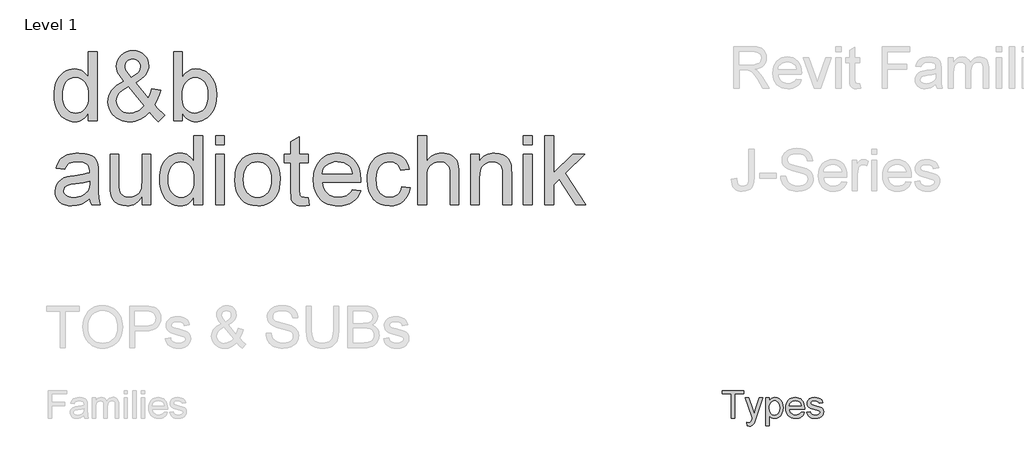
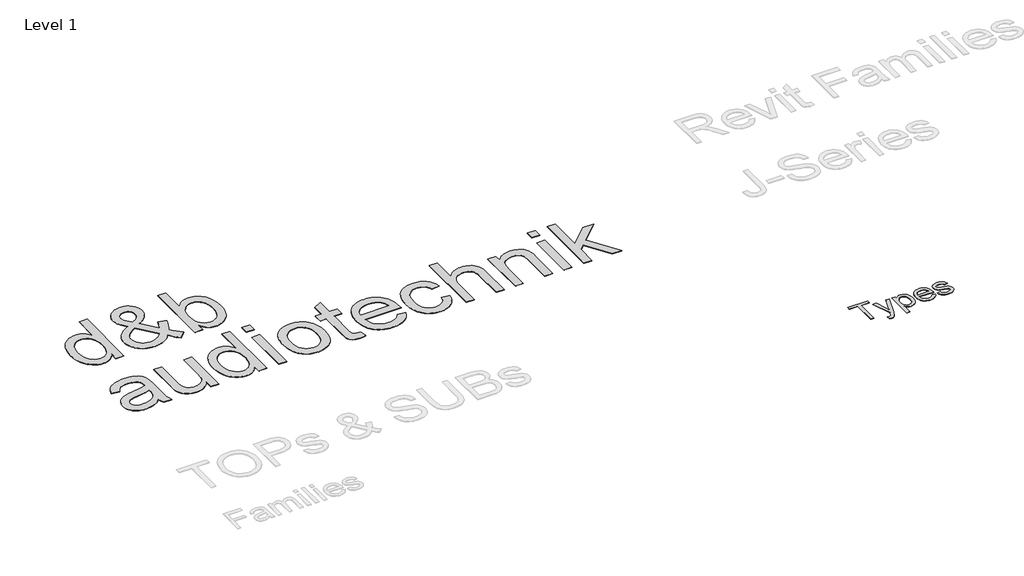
# One storey, part 6 of 7: 2 proxies.
"""IFC4 building model written with IfcOpenShell, lengths in millimetres."""

from ifc_helpers import new_model, si_unit, origin, origin_with_axes, place, context, project, spatial, polyline, outline, extrude, element, save

model = new_model("IFC4")

# Units and contexts
model_context = context("Model", 3, world=origin())
ifc_project = project(units=[si_unit("LENGTHUNIT", "METRE", prefix="MILLI")], contexts=[model_context])

# Site, building, storey
site = spatial("IfcSite", under=ifc_project)
building = spatial("IfcBuilding", under=site)
storey = spatial("IfcBuildingStorey", under=building, Name="Level 1", Elevation=0.0)

# Proxies
placement = place(None, origin())
element("IfcBuildingElementProxy", 1, Name="1000mm Arial", ObjectType="1000mm Arial", at=placement, inside=storey, context=model_context, shape_type="SweptSolid", body=[
    extrude(outline(polyline([(-20485.0918031, 21579.111869), (-20485.0918031, 21694.6019258), (-20502.4384754, 21663.947296), (-20521.720443, 21637.3799502), (-20542.937706, 21614.8998883), (-20566.0902643, 21596.5071105), (-20591.1781179, 21582.2016166), (-20618.2012669, 21571.9834066), (-20647.1597112, 21565.8524807), (-20678.0534508, 21563.8088387), (-20718.4630152, 21566.7678231), (-20757.1988107, 21575.6447762), (-20794.2608372, 21590.4396981), (-20829.6490948, 21611.1525887), (-20862.2577004, 21637.1632569), (-20890.9807709, 21667.8515115), (-20915.8183064, 21703.2173525), (-20936.7703069, 21743.26078), (-20953.4033857, 21787.2196312), (-20965.2841563, 21834.3317435), (-20972.4126187, 21884.597117), (-20974.7887728, 21938.0157516), (-20972.5994233, 21990.4555302), (-20966.0313746, 22040.4145442), (-20955.0846269, 22087.8927935), (-20939.75918, 22132.8902781), (-20920.0625062, 22174.0918939), (-20896.0020777, 22210.1825366), (-20867.5778945, 22241.1622064), (-20834.7899565, 22267.0309031), (-20798.7964521, 22287.429962), (-20760.7555697, 22302.0007184), (-20720.6673091, 22310.7431723), (-20678.5316705, 22313.6573235), (-20647.7163888, 22311.5725845), (-20618.6346535, 22305.3183676), (-20591.2864646, 22294.8946726), (-20565.671822, 22280.3014997), (-20542.0746689, 22262.3757332), (-20520.778948, 22241.9542577), (-20501.7846594, 22219.0370732), (-20485.0918031, 22193.6241796), (-20485.0918031, 22558.5058084), (-20362.6675607, 22558.5058084), (-20362.6675607, 21579.111869), (-20485.0918031, 21579.111869)]), holes=[polyline([(-20852.3645304, 21938.4939713), (-20848.9123819, 21879.1274792), (-20838.5559366, 21827.7562227), (-20821.2951944, 21784.3802017), (-20797.1301554, 21748.9994163), (-20768.2725855, 21721.5391447), (-20736.934251, 21701.9246649), (-20703.1151518, 21690.1559771), (-20666.815288, 21686.2330811), (-20630.3435639, 21689.9766447), (-20596.7262136, 21701.2073354), (-20565.9632372, 21719.9251532), (-20538.0546345, 21746.1300982), (-20514.8833958, 21780.0313914), (-20498.332511, 21821.8382539), (-20488.4019801, 21871.5506859), (-20485.0918031, 21929.1686872), (-20488.4617575, 21992.3385203), (-20498.5716208, 22046.5118453), (-20515.4213929, 22091.6886623), (-20539.0110739, 22127.8689713), (-20567.5323956, 22155.5907693), (-20599.1770896, 22175.3920537), (-20633.945156, 22187.2728242), (-20671.8365948, 22191.2330811), (-20708.8537882, 22187.4297401), (-20742.6728874, 22176.019717), (-20773.2938924, 22157.0030119), (-20800.7168031, 22130.3796247), (-20823.3126838, 22095.5667252), (-20839.4525986, 22051.9814831), (-20849.1365474, 21999.6238985), (-20852.3645304, 21938.4939713)])]), origin_with_axes(), (0.0, 0.0, 1.0), 5.0),
    extrude(outline(polyline([(-19617.362163, 21700.1014523), (-19647.8038355, 21668.157871), (-19679.590501, 21640.4734339), (-19712.7221594, 21617.0481409), (-19747.1988107, 21597.8819921), (-19783.0503436, 21582.9749875), (-19820.3066469, 21572.327127), (-19858.9677205, 21565.9384108), (-19899.0335645, 21563.8088387), (-19935.7219818, 21565.3854693), (-19970.4676317, 21570.1153609), (-20003.270514, 21577.9985138), (-20034.1306289, 21589.0349277), (-20063.0479762, 21603.2246028), (-20090.0225559, 21620.567539), (-20115.0543682, 21641.0637363), (-20138.143413, 21664.7131948), (-20169.42197, 21707.0505823), (-20191.7637965, 21751.8089571), (-20205.1688924, 21798.988319), (-20209.6372577, 21848.5886682), (-20206.0431377, 21892.569936), (-20195.260778, 21934.3693264), (-20177.2901785, 21973.9868394), (-20152.1313391, 22011.4224751), (-20119.829093, 22046.661289), (-20080.4282733, 22079.6883368), (-20033.9288799, 22110.5036185), (-19980.330913, 22139.1071341), (-20033.7420754, 22208.2098804), (-20065.8126838, 22262.9660357), (-20081.8629324, 22309.712011), (-20087.2130152, 22354.7842175), (-20082.9987041, 22397.569936), (-20070.3557709, 22437.4564476), (-20049.2842155, 22474.4437523), (-20019.784038, 22508.5318501), (-19983.9026163, 22537.0905326), (-19943.6873287, 22557.4895915), (-19899.138175, 22569.7290269), (-19850.2551554, 22573.8088387), (-19803.5839018, 22569.9083593), (-19761.3660692, 22558.2069211), (-19723.6016575, 22538.7045241), (-19690.2906667, 22511.4011682), (-19663.0919215, 22478.6281746), (-19643.6642463, 22442.7168643), (-19632.0076412, 22403.6672371), (-19628.1221061, 22361.4792932), (-19630.9988965, 22326.7336434), (-19639.6292676, 22293.273209), (-19654.0132194, 22261.09799), (-19674.150752, 22230.2079864), (-19700.0418653, 22200.6031983), (-19731.6865593, 22172.2836256), (-19769.084834, 22145.2492684), (-19812.2366895, 22119.5001266), (-19635.0562917, 21898.8017364), (-19604.8686734, 21961.866959), (-19582.2130152, 22034.3770205), (-19459.7887728, 22007.8358273), (-19477.213903, 21947.9836434), (-19497.4485739, 21894.4379817), (-19520.4927856, 21847.1988422), (-19546.346538, 21806.2662251), (-19512.6320493, 21763.9138931), (-19476.765572, 21725.0884315), (-19438.7471061, 21689.7898401), (-19398.5766516, 21658.018119), (-19490.3948334, 21563.8088387), (-19521.3745032, 21589.6327023), (-19552.8622813, 21620.9560925), (-19617.362163, 21700.1014523)]), holes=[polyline([(-19874.1661402, 22196.7326076), (-19810.1444783, 22237.3513931), (-19788.4004264, 22255.6657131), (-19773.500894, 22272.6499845), (-19756.2849849, 22306.9921365), (-19750.5463486, 22344.7416038), (-19752.4368108, 22367.2104574), (-19758.1081975, 22387.512378), (-19767.5605087, 22405.6473656), (-19780.7937444, 22421.6154201), (-19796.8664095, 22434.6394347), (-19814.8370091, 22443.9423022), (-19834.705543, 22449.5240228), (-19856.4720114, 22451.3845963), (-19878.7017552, 22449.5389671), (-19899.0036757, 22444.0020797), (-19917.3777732, 22434.773934), (-19933.8240474, 22421.85453), (-19947.3711148, 22406.2750289), (-19957.0475915, 22389.066592), (-19962.8534775, 22370.2292193), (-19964.7887728, 22349.7629107), (-19962.1585645, 22327.9142483), (-19954.2679395, 22304.9298141), (-19941.0571203, 22280.6900532), (-19922.4663296, 22255.0754107), (-19874.1661402, 22196.7326076)]), polyline([(-19699.376841, 21788.3329864), (-19917.9232425, 22061.1573235), (-19963.7202507, 22034.0333001), (-20001.4024684, 22007.8956048), (-20030.9698956, 21982.7442376), (-20052.4225323, 21958.5791985), (-20067.6433686, 21934.967101), (-20078.5153945, 21911.4745584), (-20085.03861, 21888.1015707), (-20087.2130152, 21864.8481379), (-20084.2390865, 21836.2446223), (-20075.3173003, 21807.1031095), (-20060.4476566, 21777.4235996), (-20039.6301554, 21747.2060925), (-20013.3579608, 21720.5304), (-19982.1242368, 21701.476334), (-19945.9289835, 21690.0438943), (-19904.7722008, 21686.2330811), (-19877.2969848, 21688.0114606), (-19849.3883822, 21693.3465991), (-19821.0463929, 21702.2384966), (-19792.2710171, 21714.6871531), (-19764.7210793, 21729.9602947), (-19740.055404, 21747.3256474), (-19718.2739912, 21766.7832113), (-19699.376841, 21788.3329864)])]), origin_with_axes(), (0.0, 0.0, 1.0), 5.0),
    extrude(outline(polyline([(-19153.7281667, 21579.111869), (-19276.1524092, 21579.111869), (-19276.1524092, 22558.5058084), (-19153.7281667, 22558.5058084), (-19153.7281667, 22195.2979485), (-19134.2481863, 22223.0384271), (-19113.468046, 22247.0801751), (-19091.3877459, 22267.4231927), (-19068.0072861, 22284.0674798), (-19043.3266664, 22297.0130364), (-19017.3458869, 22306.2598626), (-18990.0649476, 22311.8079583), (-18961.4838486, 22313.6573235), (-18929.5178507, 22311.9910268), (-18898.418626, 22306.9921365), (-18868.1861746, 22298.6606527), (-18838.8204963, 22286.9965754), (-18811.1734201, 22272.3137363), (-18786.0967747, 22254.925967), (-18763.5905602, 22234.8332675), (-18743.6547766, 22212.0356379), (-18710.3886189, 22158.7440305), (-18685.1924186, 22095.4695868), (-18669.3215024, 22024.8425153), (-18664.031197, 21949.4930243), (-18669.508307, 21862.5467056), (-18676.3546945, 21822.9964423), (-18685.9396369, 21786.0614429), (-18698.2631343, 21751.7417074), (-18713.3251867, 21720.0372359), (-18731.1257941, 21690.9480284), (-18751.6649565, 21664.4740849), (-18797.6861302, 21620.4330397), (-18822.3499374, 21603.1312005), (-18848.1158916, 21588.9751502), (-18874.9839928, 21577.9648889), (-18902.954241, 21570.1004166), (-18932.0266361, 21565.3817332), (-18962.2011781, 21563.8088387), (-18991.8694798, 21565.8375363), (-19019.9013734, 21571.9236292), (-19046.296859, 21582.0671173), (-19071.0559366, 21596.2680006), (-19094.1786062, 21614.5262792), (-19115.6648677, 21636.841953), (-19135.5147213, 21663.2150221), (-19153.7281667, 21693.6454864), (-19153.7281667, 21579.111869)]), holes=[polyline([(-19153.7281667, 21943.7543879), (-19151.6359556, 21888.5797904), (-19145.359322, 21841.6544826), (-19134.8982662, 21802.9784646), (-19120.252788, 21772.5517364), (-19090.5882224, 21734.7873247), (-19056.1115711, 21707.8127449), (-19016.8228341, 21691.6279971), (-18972.7220114, 21686.2330811), (-18936.1083159, 21690.2082823), (-18902.0650512, 21702.133886), (-18870.5922174, 21722.0098922), (-18841.6898145, 21749.8363008), (-18817.5247754, 21785.5383901), (-18800.2640332, 21829.0414381), (-18789.9075879, 21880.345445), (-18786.4554395, 21939.4504107), (-18789.7656164, 21999.6762037), (-18799.6961473, 22051.4733747), (-18816.2470322, 22094.8419234), (-18839.4182709, 22129.7818501), (-18867.2820404, 22156.6667636), (-18897.9105176, 22175.8702733), (-18931.3037024, 22187.3923792), (-18967.4615948, 22191.2330811), (-19004.0752903, 22187.2578799), (-19038.118555, 22175.3322762), (-19069.5913888, 22155.45627), (-19098.4937917, 22127.6298614), (-19122.6588308, 22092.2864369), (-19139.919573, 22049.8593832), (-19150.2760183, 22000.3487002), (-19153.7281667, 21943.7543879)])]), origin_with_axes(), (0.0, 0.0, 1.0), 5.0),
    extrude(outline(polyline([(-20469.7887728, 20473.9603538), (-20498.8182028, 20446.7167755), (-20528.2810195, 20423.8070631), (-20558.1772227, 20405.2312168), (-20588.5068126, 20390.9892364), (-20619.6135094, 20380.42357), (-20651.8410337, 20372.8766654), (-20719.6585645, 20366.8391417), (-20774.1681377, 20370.4706225), (-20821.9676909, 20381.365065), (-20863.0572239, 20399.5224691), (-20897.4367368, 20424.9428349), (-20924.5831768, 20456.0121708), (-20943.9734911, 20491.1164855), (-20955.6076796, 20530.2557788), (-20959.4857425, 20573.4300508), (-20953.6275512, 20624.1811162), (-20936.0529773, 20670.2695394), (-20908.9438983, 20709.7226644), (-20874.4821914, 20740.5678349), (-20833.9829608, 20763.8810451), (-20788.7613107, 20780.7382894), (-20744.7053211, 20790.123351), (-20682.8356478, 20799.1497478), (-20557.6616421, 20818.5176455), (-20509.331564, 20829.4569211), (-20470.5061023, 20841.2330811), (-20469.7887728, 20868.4916038), (-20471.8959283, 20898.1711138), (-20478.217395, 20923.1282042), (-20488.7531727, 20943.3628751), (-20503.5032614, 20958.8751266), (-20528.998349, 20974.3574893), (-20560.0527406, 20985.4163198), (-20596.6664362, 20992.051618), (-20638.8394357, 20994.2633841), (-20678.0534508, 20992.7913641), (-20711.7679395, 20988.3753041), (-20739.9829016, 20981.0152041), (-20762.6983372, 20970.7110641), (-20781.3638497, 20956.6558883), (-20797.4290427, 20938.042681), (-20810.893916, 20914.8714423), (-20821.7584698, 20887.142172), (-20944.1827122, 20902.4452023), (-20934.8649003, 20937.713905), (-20922.9318244, 20969.3959599), (-20908.3834846, 20997.4913671), (-20891.2198808, 21022.0001266), (-20870.7012669, 21043.4154024), (-20846.0878969, 21062.2303586), (-20817.3797707, 21078.4449952), (-20784.5768883, 21092.0593122), (-20748.3442741, 21102.8341997), (-20709.3469523, 21110.530548), (-20667.5849228, 21115.1483569), (-20623.0581857, 21116.6876266), (-20540.2962894, 21111.2478775), (-20505.3488906, 21104.4481912), (-20474.6905247, 21094.9286304), (-20425.2246748, 21070.3899822), (-20406.1631366, 21056.0359191), (-20390.8825228, 21040.29203), (-20368.1073097, 21003.0805598), (-20353.3422766, 20957.2013576), (-20348.8589669, 20914.8789144), (-20347.3645304, 20850.0801455), (-20347.3645304, 20697.767172), (-20345.8103164, 20565.0910948), (-20341.1476743, 20485.0789618), (-20331.9419452, 20432.5046839), (-20316.7584698, 20382.142172), (-20439.1827122, 20382.142172), (-20458.7897198, 20424.7037251), (-20469.7887728, 20473.9603538)]), holes=[polyline([(-20469.7887728, 20718.8088387), (-20552.0425607, 20698.4247241), (-20667.2935077, 20681.2685925), (-20730.8070612, 20671.8835309), (-20772.6213959, 20661.4224751), (-20800.0293623, 20647.8529912), (-20820.3238107, 20629.1426455), (-20832.8770777, 20606.7260972), (-20837.0615001, 20582.0380054), (-20834.7824843, 20563.013828), (-20827.9454371, 20545.6335309), (-20816.5503584, 20529.897114), (-20800.5972482, 20515.8045773), (-20780.2355501, 20504.1928053), (-20755.6147079, 20495.8986824), (-20726.7347215, 20490.9222087), (-20693.595591, 20489.2633841), (-20659.7615474, 20491.0940689), (-20627.8403827, 20496.5861233), (-20597.8320967, 20505.7395471), (-20569.7366895, 20518.5543406), (-20544.3910455, 20533.9694536), (-20522.6320493, 20550.9238363), (-20504.4597008, 20569.4174887), (-20489.8740001, 20589.4504107), (-20481.4005448, 20607.3836493), (-20475.3480768, 20629.1426455), (-20470.5061023, 20684.1379107), (-20469.7887728, 20718.8088387)])]), origin_with_axes(), (0.0, 0.0, 1.0), 5.0),
    extrude(outline(polyline([(-19719.940288, 20382.142172), (-19719.940288, 20505.7619637), (-19741.1762314, 20473.2019273), (-19764.2353874, 20444.9832291), (-19789.117756, 20421.1058691), (-19815.8233372, 20401.5698472), (-19844.352131, 20386.3751636), (-19874.7041374, 20375.5218181), (-19906.8793564, 20369.0098108), (-19940.877788, 20366.8391417), (-20000.5058064, 20372.9364429), (-20028.7730738, 20380.5580693), (-20056.00918, 20391.2283463), (-20102.575823, 20418.7259788), (-20120.7033384, 20434.8061162), (-20135.3936497, 20452.4404675), (-20157.4814219, 20493.388029), (-20171.8579016, 20542.5848804), (-20177.2378732, 20588.972191), (-20179.031197, 20656.4011682), (-20179.031197, 21101.3845963), (-20056.6069546, 21101.3845963), (-20056.6069546, 20714.0266417), (-20054.7538533, 20636.5550508), (-20049.1945493, 20589.2113008), (-20041.864338, 20567.1459451), (-20031.3509769, 20547.5762984), (-20017.6544659, 20530.5023608), (-20000.774805, 20515.9241323), (-19981.2201027, 20504.260055), (-19959.4984674, 20495.9285712), (-19935.6098991, 20490.9296809), (-19909.5543978, 20489.2633841), (-19882.7217895, 20490.9670418), (-19856.74101, 20496.0780148), (-19831.6120594, 20504.5963032), (-19807.3349376, 20516.5219069), (-19785.2247488, 20531.3840784), (-19766.5965971, 20548.7120702), (-19751.4504827, 20568.5058824), (-19739.7864054, 20590.7655148), (-19731.103729, 20616.9106823), (-19724.9018173, 20648.3610996), (-19719.940288, 20727.1776834), (-19719.940288, 21101.3845963), (-19597.5160455, 21101.3845963), (-19597.5160455, 20382.142172), (-19719.940288, 20382.142172)])), origin_with_axes(), (0.0, 0.0, 1.0), 5.0),
    extrude(outline(polyline([(-18985.3948334, 20382.142172), (-18985.3948334, 20497.6322288), (-19002.7415057, 20466.977599), (-19022.0234733, 20440.4102532), (-19043.2407363, 20417.9301914), (-19066.3932946, 20399.5374135), (-19091.4811482, 20385.2319196), (-19118.5042972, 20375.0137097), (-19147.4627415, 20368.8827837), (-19178.3564811, 20366.8391417), (-19218.7660455, 20369.7981261), (-19257.501841, 20378.6750792), (-19294.5638675, 20393.4700011), (-19329.9521251, 20414.1828917), (-19362.5607307, 20440.1935599), (-19391.2838012, 20470.8818145), (-19416.1213367, 20506.2476556), (-19437.0733372, 20546.291083), (-19453.706416, 20590.2499342), (-19465.5871866, 20637.3620466), (-19472.715649, 20687.62742), (-19475.0918031, 20741.0460546), (-19472.9024536, 20793.4858332), (-19466.3344049, 20843.4448472), (-19455.3876572, 20890.9230965), (-19440.0622103, 20935.9205811), (-19420.3655365, 20977.1221969), (-19396.305108, 21013.2128396), (-19367.8809248, 21044.1925094), (-19335.0929868, 21070.0612061), (-19299.0994824, 21090.4602651), (-19261.0586, 21105.0310215), (-19220.9703394, 21113.7734753), (-19178.8347008, 21116.6876266), (-19148.0194191, 21114.6028876), (-19118.9376838, 21108.3486706), (-19091.5894949, 21097.9249756), (-19065.9748523, 21083.3318027), (-19042.3776992, 21065.4060363), (-19021.0819783, 21044.9845608), (-19002.0876897, 21022.0673762), (-18985.3948334, 20996.6544826), (-18985.3948334, 21361.5361114), (-18862.970591, 21361.5361114), (-18862.970591, 20382.142172), (-18985.3948334, 20382.142172)]), holes=[polyline([(-19352.6675607, 20741.5242743), (-19349.2154122, 20682.1577822), (-19338.8589669, 20630.7865257), (-19321.5982247, 20587.4105048), (-19297.4331857, 20552.0297194), (-19268.5756158, 20524.5694477), (-19237.2372813, 20504.954968), (-19203.4181821, 20493.1862801), (-19167.1183183, 20489.2633841), (-19130.6465942, 20493.0069477), (-19097.0292439, 20504.2376384), (-19066.2662675, 20522.9554562), (-19038.3576648, 20549.1604012), (-19015.1864261, 20583.0616944), (-18998.6355413, 20624.868557), (-18988.7050104, 20674.5809889), (-18985.3948334, 20732.1989902), (-18988.7647878, 20795.3688233), (-18998.8746511, 20849.5421483), (-19015.7244233, 20894.7189653), (-19039.3141042, 20930.8992743), (-19067.8354259, 20958.6210724), (-19099.4801199, 20978.4223567), (-19134.2481863, 20990.3031273), (-19172.1396251, 20994.2633841), (-19209.1568185, 20990.4600431), (-19242.9759177, 20979.05002), (-19273.5969227, 20960.0333149), (-19301.0198334, 20933.4099277), (-19323.6157141, 20898.5970282), (-19339.7556289, 20855.0117861), (-19349.4395777, 20802.6542015), (-19352.6675607, 20741.5242743)])]), origin_with_axes(), (0.0, 0.0, 1.0), 5.0),
    extrude(outline(polyline([(-18679.3342273, 20382.142172), (-18679.3342273, 21101.3845963), (-18556.9099849, 21101.3845963), (-18556.9099849, 20382.142172), (-18679.3342273, 20382.142172)])), origin_with_axes(), (0.0, 0.0, 1.0), 5.0),
    extrude(outline(polyline([(-18679.3342273, 21239.111869), (-18679.3342273, 21361.5361114), (-18556.9099849, 21361.5361114), (-18556.9099849, 21239.111869), (-18679.3342273, 21239.111869)])), origin_with_axes(), (0.0, 0.0, 1.0), 5.0),
    extrude(outline(polyline([(-18403.8796819, 20741.7633841), (-18402.2245934, 20789.9477547), (-18397.259328, 20834.9116145), (-18388.9838856, 20876.6549635), (-18377.3982662, 20915.1778018), (-18362.5024698, 20950.4801292), (-18344.2964965, 20982.5619459), (-18322.7803463, 21011.4232519), (-18297.954019, 21037.064047), (-18251.2977098, 21071.8993631), (-18199.7994262, 21096.7817317), (-18143.4591682, 21111.7111528), (-18082.2769357, 21116.6876266), (-18014.7358757, 21110.6276863), (-17983.391937, 21103.0527611), (-17953.6657259, 21092.4478657), (-17925.5572424, 21078.8130002), (-17899.0664865, 21062.1481646), (-17874.1934581, 21042.4533588), (-17850.9381573, 21019.728583), (-17829.8946226, 20994.3325018), (-17811.6568925, 20966.6237801), (-17796.224967, 20936.6024178), (-17783.5988462, 20904.2684149), (-17773.77853, 20869.6217715), (-17766.7640184, 20832.6624875), (-17761.1524092, 20751.8059978), (-17763.6331738, 20686.2749549), (-17771.0754679, 20628.1264287), (-17783.4792913, 20577.3604189), (-17800.844644, 20533.9769258), (-17822.9548328, 20496.5039292), (-17849.5931644, 20463.4694092), (-17880.7596387, 20434.8733658), (-17916.4542558, 20410.7157989), (-17955.2871896, 20391.5197614), (-17995.8686142, 20377.808306), (-18038.1985295, 20369.5814328), (-18082.2769357, 20366.8391417), (-18150.8043238, 20372.8766654), (-18182.4845107, 20380.42357), (-18212.4423594, 20390.9892364), (-18240.6778701, 20404.5736647), (-18267.1910426, 20421.1768548), (-18291.9818769, 20440.7988067), (-18315.0503732, 20463.4395205), (-18335.8697424, 20488.9196637), (-18353.9131957, 20517.059904), (-18369.1807332, 20547.8602414), (-18381.6723547, 20581.3206758), (-18391.3880604, 20617.4412073), (-18398.3278501, 20656.2218358), (-18403.8796819, 20741.7633841)]), holes=[polyline([(-18281.4554395, 20742.002494), (-18277.9136248, 20682.6210576), (-18267.2881809, 20631.204968), (-18249.5791078, 20587.7542252), (-18224.7864054, 20552.2688292), (-18194.6286757, 20524.703947), (-18160.8245209, 20505.0147454), (-18123.3739409, 20493.2012245), (-18082.2769357, 20489.2633841), (-18041.3891516, 20493.223641), (-18004.0880152, 20505.1044116), (-17970.3735266, 20524.9056959), (-17940.2456857, 20552.627494), (-17915.4529833, 20588.4640825), (-17897.7439101, 20632.6097383), (-17887.1184662, 20685.0644613), (-17883.5766516, 20745.8282516), (-17887.1408828, 20803.3266979), (-17897.8335763, 20853.3977947), (-17915.6547322, 20896.0415417), (-17940.6043505, 20931.2579391), (-17970.8442741, 20958.8228213), (-18004.5363462, 20978.5120229), (-18041.6805667, 20990.3255438), (-18082.2769357, 20994.2633841), (-18123.3739409, 20990.3404882), (-18160.8245209, 20978.5718003), (-18194.6286757, 20958.9573206), (-18224.7864054, 20931.4970489), (-18249.5791078, 20896.1162635), (-18267.2881809, 20852.7402426), (-18277.9136248, 20801.3689861), (-18281.4554395, 20742.002494)])]), origin_with_axes(), (0.0, 0.0, 1.0), 5.0),
    extrude(outline(polyline([(-17363.2736213, 20484.2420773), (-17347.970591, 20378.5555243), (-17396.4501128, 20369.7682374), (-17439.549663, 20366.8391417), (-17498.3109082, 20371.920226), (-17522.0873938, 20378.2715814), (-17542.127788, 20387.1634788), (-17573.0925133, 20410.6560215), (-17593.2972955, 20440.4849751), (-17599.7831502, 20461.5415861), (-17604.4159035, 20491.7142601), (-17608.1221061, 20579.407797), (-17608.1221061, 20978.9603538), (-17699.940288, 20978.9603538), (-17699.940288, 21101.3845963), (-17608.1221061, 21101.3845963), (-17608.1221061, 21276.1738955), (-17485.6978637, 21348.1459599), (-17485.6978637, 21101.3845963), (-17363.2736213, 21101.3845963), (-17363.2736213, 20978.9603538), (-17485.6978637, 20978.9603538), (-17485.6978637, 20582.9944448), (-17484.0838722, 20542.7044353), (-17479.2418978, 20519.8694448), (-17470.7833869, 20507.2265115), (-17458.3197861, 20497.5126739), (-17440.655546, 20491.3257066), (-17416.5951175, 20489.2633841), (-17363.2736213, 20484.2420773)])), origin_with_axes(), (0.0, 0.0, 1.0), 5.0),
    extrude(outline(polyline([(-16737.284038, 20596.3845963), (-16617.250894, 20581.081566), (-16635.6548802, 20533.0055421), (-16660.4998879, 20490.6382658), (-16691.7859171, 20453.9797371), (-16729.5129679, 20423.0299561), (-16773.2924867, 20398.4464748), (-16822.7359201, 20380.8868453), (-16877.8432679, 20370.3510676), (-16938.6145304, 20366.8391417), (-16977.6305327, 20368.3541268), (-17014.5767404, 20372.8990819), (-17049.4531534, 20380.4740072), (-17082.2597719, 20391.0789026), (-17112.9965957, 20404.7137681), (-17141.6636248, 20421.3786037), (-17168.2608594, 20441.0734094), (-17192.7882993, 20463.7981853), (-17214.812558, 20489.25778), (-17233.9002489, 20517.1570424), (-17250.0513719, 20547.4959725), (-17263.2659272, 20580.2745702), (-17273.5439146, 20615.4928356), (-17280.8853341, 20653.1507687), (-17286.7584698, 20735.7856379), (-17280.8255567, 20821.2225757), (-17273.4094153, 20860.1414396), (-17263.0268173, 20896.5272336), (-17249.6777628, 20930.3799576), (-17233.3622517, 20961.6996117), (-17214.0802841, 20990.4861958), (-17191.8318599, 21016.7397099), (-17167.2184899, 21040.1650029), (-17140.8416847, 21060.4669234), (-17112.7014444, 21077.6454716), (-17082.797769, 21091.7006474), (-17051.1306585, 21102.6324508), (-17017.7001128, 21110.4408818), (-16982.5061319, 21115.1259404), (-16945.548716, 21116.6876266), (-16909.7999256, 21115.1296765), (-16875.721168, 21110.4558261), (-16843.3124433, 21102.6660756), (-16812.5737515, 21091.7604249), (-16783.5050925, 21077.7388739), (-16756.1064663, 21060.6014227), (-16730.377873, 21040.3480713), (-16706.3193126, 21016.9788198), (-16684.54724, 20990.7850831), (-16665.6781105, 20962.0582764), (-16649.711924, 20930.7983998), (-16636.6486805, 20897.0054533), (-16626.48838, 20860.6794368), (-16619.2310224, 20821.8203503), (-16613.4251364, 20736.5029675), (-16614.142466, 20703.5058084), (-17164.3342273, 20703.5058084), (-17157.2431259, 20654.6526775), (-17143.143117, 20611.866959), (-17122.0342007, 20575.1486528), (-17093.916377, 20544.4977591), (-17060.3438598, 20520.3327201), (-17022.8708632, 20503.0719779), (-16981.4973873, 20492.7155326), (-16936.2234319, 20489.2633841), (-16902.3594996, 20490.8624313), (-16871.0659982, 20495.6595726), (-16842.3429276, 20503.6548082), (-16816.190288, 20514.8481379), (-16792.6080791, 20529.5384492), (-16771.5963012, 20548.0246294), (-16753.1549541, 20570.3066784), (-16737.284038, 20596.3845963)]), holes=[polyline([(-17164.3342273, 20825.9300508), (-16735.8493789, 20825.9300508), (-16742.1409568, 20860.5710901), (-16752.4077359, 20890.6092648), (-16766.6497162, 20916.044575), (-16784.8668978, 20936.8770205), (-16818.2526104, 20961.9835546), (-16856.2411876, 20979.9167932), (-16898.8326293, 20990.6767364), (-16946.0269357, 20994.2633841), (-16989.0741806, 20991.4015381), (-17028.5497221, 20982.8160001), (-17064.4535603, 20968.5067702), (-17096.7856952, 20948.4738482), (-17123.9171908, 20923.6437848), (-17144.2191113, 20894.9431308), (-17157.6914569, 20862.3718862), (-17164.3342273, 20825.9300508)])]), origin_with_axes(), (0.0, 0.0, 1.0), 5.0),
    extrude(outline(polyline([(-16031.9099849, 20642.2936872), (-15909.4857425, 20626.9906569), (-15922.8011722, 20569.2232119), (-15943.6186734, 20518.1060096), (-15971.9382461, 20473.63905), (-16007.7598902, 20435.822333), (-16049.574225, 20405.6421868), (-16095.8718694, 20384.0849395), (-16146.6528235, 20371.1505912), (-16201.9170872, 20366.8391417), (-16270.5789746, 20372.8542488), (-16302.2479532, 20380.3731328), (-16332.1422884, 20390.8995702), (-16360.2619802, 20404.4335613), (-16386.6070286, 20420.9751059), (-16411.1774336, 20440.524204), (-16433.9731952, 20463.0808557), (-16454.5123575, 20488.4470482), (-16472.3129649, 20516.4247685), (-16487.3750173, 20547.0140167), (-16499.6985148, 20580.2147928), (-16509.2834572, 20616.0270967), (-16516.1298447, 20654.4509285), (-16521.6069546, 20739.1331758), (-16519.2681614, 20795.4211286), (-16512.2517818, 20848.0776005), (-16500.5578158, 20897.1025916), (-16484.1862633, 20942.4961019), (-16463.0250417, 20983.3465251), (-16436.9620683, 21018.7422549), (-16405.9973429, 21048.6832912), (-16370.1308656, 21073.1696341), (-16330.9841001, 21092.2087558), (-16290.17851, 21105.8081285), (-16247.7140954, 21113.967752), (-16203.5908561, 21116.6876266), (-16149.2755596, 21112.9515352), (-16100.1459579, 21101.743261), (-16056.2020511, 21083.0628041), (-16017.4438391, 21056.9101644), (-15984.528874, 21023.8831166), (-15958.1147079, 20984.5794353), (-15938.2013409, 20938.9991204), (-15924.7887728, 20887.142172), (-16047.2130152, 20871.8391417), (-16056.769937, 20900.4351852), (-16069.4203424, 20925.2503041), (-16085.1642315, 20946.2844986), (-16104.0016042, 20963.5377686), (-16125.454241, 20976.9802254), (-16149.0439219, 20986.5819803), (-16174.7706472, 20992.3430332), (-16202.6344167, 20994.2633841), (-16244.2320582, 20990.4824597), (-16281.7498879, 20979.1396862), (-16315.1879057, 20960.2350638), (-16344.5461118, 20933.7685925), (-16368.4496245, 20899.1275532), (-16385.5235621, 20855.6992269), (-16395.7679247, 20803.4836138), (-16399.1827122, 20742.4807137), (-16395.8426465, 20680.5587351), (-16385.8224494, 20627.7378751), (-16369.1221209, 20584.0181338), (-16345.7416611, 20549.399511), (-16316.9662852, 20523.0899555), (-16284.0812089, 20504.2974159), (-16247.086432, 20493.0218921), (-16205.9819546, 20489.2633841), (-16172.8577684, 20491.6096495), (-16142.587956, 20498.6484457), (-16115.1725175, 20510.3797726), (-16090.6114527, 20526.8036304), (-16069.5922026, 20548.0993512), (-16052.8022079, 20574.4462677), (-16040.2414687, 20605.8443796), (-16031.9099849, 20642.2936872)])), origin_with_axes(), (0.0, 0.0, 1.0), 5.0),
    extrude(outline(polyline([(-15802.3645304, 20382.142172), (-15802.3645304, 21361.5361114), (-15679.940288, 21361.5361114), (-15679.940288, 21001.4366796), (-15658.1476669, 21028.4486203), (-15634.9726921, 21051.8589689), (-15610.4153634, 21071.6677254), (-15584.4756809, 21087.8748898), (-15557.1536447, 21100.4804622), (-15528.4492546, 21109.4844424), (-15498.3625107, 21114.8868305), (-15466.893413, 21116.6876266), (-15428.6208928, 21114.7224425), (-15392.9486923, 21108.8268903), (-15359.8768114, 21099.00097), (-15329.4052501, 21085.2446815), (-15302.3111154, 21068.0213002), (-15279.3715143, 21047.7941015), (-15260.5864468, 21024.5630853), (-15245.955913, 20998.3282516), (-15234.9718043, 20967.4681367), (-15227.1260124, 20930.3612771), (-15222.4185372, 20887.0076727), (-15220.8493789, 20837.4073235), (-15220.8493789, 20382.142172), (-15343.2736213, 20382.142172), (-15343.2736213, 20824.7345016), (-15345.7095529, 20866.0706166), (-15353.0173476, 20901.369208), (-15365.1970055, 20930.6302757), (-15382.2485266, 20953.8538198), (-15403.768413, 20971.5330042), (-15429.3531667, 20984.160993), (-15459.002788, 20991.7377864), (-15492.7172766, 20994.2633841), (-15518.981999, 20992.5597265), (-15544.4546701, 20987.4487535), (-15569.1352897, 20978.9304651), (-15593.023858, 20967.0048614), (-15614.8276873, 20952.1651064), (-15633.25409, 20934.9043643), (-15648.3030661, 20915.2226349), (-15659.9746156, 20893.1199182), (-15668.7095973, 20867.5799975), (-15674.9488699, 20837.5866559), (-15679.940288, 20764.2397099), (-15679.940288, 20382.142172), (-15802.3645304, 20382.142172)])), origin_with_axes(), (0.0, 0.0, 1.0), 5.0),
    extrude(outline(polyline([(-15052.5160455, 20382.142172), (-15052.5160455, 21101.3845963), (-14930.0918031, 21101.3845963), (-14930.0918031, 21000.9584599), (-14909.8944931, 21028.0824833), (-14887.5601388, 21051.5899703), (-14863.0887403, 21071.4809208), (-14836.4802974, 21087.7553349), (-14807.7348103, 21100.4132125), (-14776.852279, 21109.4545537), (-14743.8327033, 21114.8793583), (-14708.6760834, 21116.6876266), (-14648.3307354, 21110.859324), (-14593.0664717, 21093.3744163), (-14568.3634354, 21080.8062049), (-14546.9780484, 21066.4147809), (-14528.9103104, 21050.2001443), (-14514.1602217, 21032.1622951), (-14491.893117, 20990.7066251), (-14477.4568599, 20942.1374372), (-14472.6148855, 20895.6903491), (-14471.000894, 20823.7780622), (-14471.000894, 20382.142172), (-14593.4251364, 20382.142172), (-14593.4251364, 20807.2794826), (-14596.9520067, 20870.583815), (-14607.5326175, 20915.596244), (-14615.9388231, 20932.6253485), (-14627.0499589, 20947.8461848), (-14657.3870209, 20972.8630527), (-14696.27226, 20988.9133013), (-14741.4341327, 20994.2633841), (-14778.6082419, 20991.2595667), (-14813.1371985, 20982.2481143), (-14845.0210023, 20967.2290269), (-14874.2596535, 20946.2023046), (-14898.6862189, 20916.7768489), (-14916.1337657, 20876.5615612), (-14926.6022938, 20825.5564417), (-14930.0918031, 20763.7614902), (-14930.0918031, 20382.142172), (-15052.5160455, 20382.142172)])), origin_with_axes(), (0.0, 0.0, 1.0), 5.0),
    extrude(outline(polyline([(-14302.6675607, 20382.142172), (-14302.6675607, 21101.3845963), (-14180.2433183, 21101.3845963), (-14180.2433183, 20382.142172), (-14302.6675607, 20382.142172)])), origin_with_axes(), (0.0, 0.0, 1.0), 5.0),
    extrude(outline(polyline([(-14302.6675607, 21239.111869), (-14302.6675607, 21361.5361114), (-14180.2433183, 21361.5361114), (-14180.2433183, 21239.111869), (-14302.6675607, 21239.111869)])), origin_with_axes(), (0.0, 0.0, 1.0), 5.0),
    extrude(outline(polyline([(-13996.6069546, 20382.142172), (-13996.6069546, 21361.5361114), (-13874.1827122, 21361.5361114), (-13874.1827122, 20835.2553349), (-13599.6846061, 21101.3845963), (-13430.3948334, 21101.3845963), (-13708.2404773, 20831.907797), (-13415.0918031, 20382.142172), (-13558.0794925, 20382.142172), (-13795.9937917, 20746.784691), (-13874.1827122, 20670.986869), (-13874.1827122, 20382.142172), (-13996.6069546, 20382.142172)])), origin_with_axes(), (0.0, 0.0, 1.0), 5.0),
])
element("IfcBuildingElementProxy", 2, Name="400mm Arial", ObjectType="400mm Arial", at=placement, inside=storey, context=model_context, shape_type="SweptSolid", body=[
    extrude(outline(polyline([(-11345.9583027, 17351.3054836), (-11345.9583027, 17694.0933624), (-11474.5037572, 17694.0933624), (-11474.5037572, 17743.0630593), (-11168.4431512, 17743.0630593), (-11168.4431512, 17694.0933624), (-11296.9886057, 17694.0933624), (-11296.9886057, 17351.3054836), (-11345.9583027, 17351.3054836)])), origin_with_axes(), (0.0, 0.0, 1.0), 5.0),
    extrude(outline(polyline([(-11119.4734542, 17241.1236654), (-11125.5946663, 17288.2761275), (-11100.7272421, 17283.9721502), (-11087.6479334, 17285.3231209), (-11077.4857648, 17289.3760328), (-11063.2348179, 17304.4399533), (-11049.8446663, 17340.4977184), (-11046.0189088, 17352.3575669), (-11150.0795148, 17639.0024533), (-11098.4317875, 17639.0024533), (-11043.2452345, 17479.2770745), (-11024.0208027, 17415.386923), (-11004.7963709, 17471.8168472), (-10948.0795148, 17639.0024533), (-10896.8143633, 17639.0024533), (-10996.9535679, 17344.4191199), (-11022.9687194, 17280.5289684), (-11036.2871379, 17260.1328983), (-11051.3749694, 17246.0015063), (-11068.9017213, 17237.7522165), (-11089.5369012, 17235.0024533), (-11119.4734542, 17241.1236654)])), origin_with_axes(), (0.0, 0.0, 1.0), 5.0),
    extrude(outline(polyline([(-10856.261333, 17241.1236654), (-10856.261333, 17639.0024533), (-10807.291636, 17639.0024533), (-10807.291636, 17590.9891957), (-10791.3190982, 17614.6730262), (-10773.4336815, 17631.590048), (-10752.5833027, 17641.740261), (-10727.7158785, 17645.1236654), (-10694.5991644, 17640.3892904), (-10665.6429618, 17626.1861654), (-10642.0667307, 17603.3750858), (-10625.0899315, 17572.8168472), (-10614.832119, 17536.7351711), (-10611.4128482, 17497.353779), (-10615.2744722, 17455.4736891), (-10626.8593444, 17418.0171313), (-10645.7968444, 17386.885029), (-10671.7163519, 17363.9783055), (-10701.9039703, 17349.88278), (-10733.6458027, 17345.1842715), (-10756.1579949, 17348.328566), (-10776.2551777, 17357.7614495), (-10793.4591313, 17372.000441), (-10807.291636, 17389.5630593), (-10807.291636, 17241.1236654), (-10856.261333, 17241.1236654)]), holes=[polyline([(-10807.291636, 17492.8585139), (-10801.9953529, 17448.9579457), (-10795.374999, 17431.9572355), (-10786.1065035, 17418.2562411), (-10762.6617828, 17400.1795366), (-10749.2447314, 17395.6603605), (-10734.697886, 17394.1539684), (-10719.9418195, 17395.7141602), (-10706.2796805, 17400.3947355), (-10682.2371853, 17419.1170366), (-10672.6757802, 17433.3141839), (-10665.8462052, 17450.9425574), (-10660.3825451, 17496.4929836), (-10665.7146947, 17540.1544419), (-10672.3798818, 17557.2866625), (-10681.7111436, 17571.2865442), (-10705.1199978, 17589.9371124), (-10718.3846166, 17594.5997544), (-10732.6893633, 17596.1539684), (-10746.9492769, 17594.5011216), (-10760.3663283, 17589.5425811), (-10784.6718444, 17569.7084192), (-10794.5680032, 17554.9882191), (-10801.6366881, 17537.2731682), (-10805.8778991, 17516.5632665), (-10807.291636, 17492.8585139)])]), origin_with_axes(), (0.0, 0.0, 1.0), 5.0),
    extrude(outline(polyline([(-10354.8958027, 17437.0024533), (-10306.8825451, 17430.8812411), (-10314.2441396, 17411.6508316), (-10324.1821427, 17394.7039211), (-10336.6965544, 17380.0405096), (-10351.7873747, 17367.6605972), (-10369.2991822, 17357.8272047), (-10389.0765555, 17350.8033529), (-10435.4279997, 17345.1842715), (-10465.8128837, 17347.6082475), (-10492.8860963, 17354.8801758), (-10516.6476375, 17367.0000563), (-10537.0975072, 17383.9678889), (-10553.5422871, 17405.3114317), (-10565.2885584, 17430.5584429), (-10572.3363212, 17459.7089223), (-10574.6855754, 17492.7628699), (-10572.3124102, 17526.937645), (-10565.1929144, 17557.0595082), (-10553.3270882, 17583.1284594), (-10536.7149315, 17605.1444987), (-10516.3188614, 17622.6353841), (-10493.1012951, 17635.1288737), (-10467.0622326, 17642.6249675), (-10438.2016739, 17645.1236654), (-10410.2706547, 17642.6309452), (-10385.0116881, 17635.1527847), (-10362.4247741, 17622.6891839), (-10342.5099125, 17605.2401427), (-10326.2534317, 17583.2719253), (-10314.6416597, 17557.2507961), (-10307.6745965, 17527.1767549), (-10305.3522421, 17493.0498018), (-10305.6391739, 17479.8509381), (-10525.7158785, 17479.8509381), (-10522.8794379, 17460.3096858), (-10517.2394343, 17443.1953983), (-10508.7958678, 17428.5080759), (-10497.5487383, 17416.2477184), (-10469.1305328, 17399.6774059), (-10434.4715603, 17394.1539684), (-10408.4085868, 17396.7124438), (-10386.4583027, 17404.3878699), (-10368.620708, 17417.6584665), (-10354.8958027, 17437.0024533)]), holes=[polyline([(-10525.7158785, 17528.8206351), (-10354.3219391, 17528.8206351), (-10360.9452819, 17554.6923207), (-10373.9289466, 17573.199423), (-10387.2832317, 17583.2420366), (-10402.4786625, 17590.4153321), (-10438.3929618, 17596.1539684), (-10471.4020764, 17591.5750148), (-10498.6964656, 17577.838154), (-10517.6698321, 17556.4258671), (-10525.7158785, 17528.8206351)])]), origin_with_axes(), (0.0, 0.0, 1.0), 5.0),
    extrude(outline(polyline([(-10274.7461815, 17437.0024533), (-10225.7764845, 17443.1236654), (-10218.0532364, 17422.1776427), (-10203.1088709, 17406.7789684), (-10180.847744, 17397.3102184), (-10151.1742118, 17394.1539684), (-10121.8593444, 17397.0471976), (-10101.2480754, 17405.7268851), (-10089.0534732, 17418.3040631), (-10084.9886057, 17432.8897639), (-10089.0773841, 17445.371298), (-10101.3437194, 17454.8878699), (-10151.7480754, 17468.8518851), (-10225.4895527, 17492.8106919), (-10244.1520764, 17504.8498728), (-10257.6737383, 17520.7865442), (-10265.8871616, 17539.6044893), (-10268.6249694, 17560.2874911), (-10266.4251588, 17579.2608576), (-10259.8257269, 17596.775654), (-10249.4244485, 17612.1384618), (-10235.8190982, 17624.6558624), (-10204.6869959, 17639.1459192), (-10162.5558406, 17645.1236654), (-10130.6824978, 17642.7206114), (-10102.9696663, 17635.5114495), (-10080.6846285, 17624.2015536), (-10065.0946663, 17609.496298), (-10054.7651209, 17590.3077326), (-10048.261333, 17565.5479078), (-10097.23103, 17559.4266957), (-10103.4120196, 17574.8373254), (-10115.6424883, 17586.4461086), (-10134.0419911, 17593.7270035), (-10158.730083, 17596.1539684), (-10186.8494012, 17593.8346029), (-10205.5956133, 17586.8765063), (-10216.1403576, 17576.8338927), (-10219.6552724, 17565.260976), (-10213.8209921, 17551.010029), (-10195.5529997, 17540.2022639), (-10153.3740224, 17529.7770745), (-10081.4976019, 17506.7268851), (-10062.51228, 17495.7039211), (-10048.1178671, 17480.6160896), (-10039.0436483, 17461.4155688), (-10036.0189088, 17438.0545366), (-10039.56969, 17413.9044419), (-10050.2220338, 17391.1890063), (-10067.5694533, 17371.6895982), (-10091.2054618, 17357.1875858), (-10119.7551777, 17348.1851), (-10151.8437194, 17345.1842715), (-10178.1996024, 17346.630886), (-10201.2199031, 17350.9707298), (-10220.9046214, 17358.2038027), (-10237.2537572, 17368.3301048), (-10250.6080423, 17381.3018141), (-10261.308208, 17397.0711086), (-10269.3542544, 17415.6379883), (-10274.7461815, 17437.0024533)])), origin_with_axes(), (0.0, 0.0, 1.0), 5.0),
])

save(model, "model.ifc")
